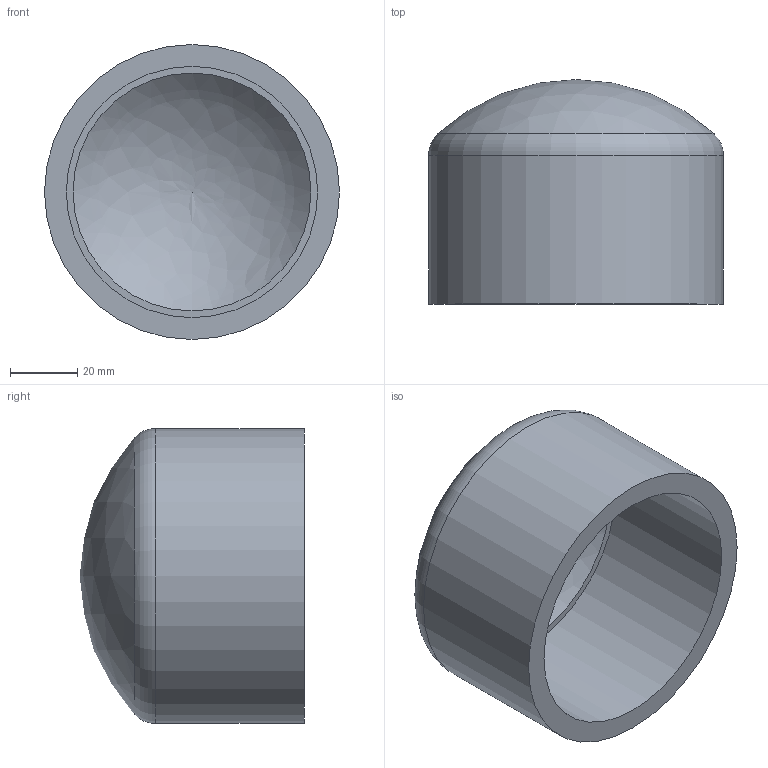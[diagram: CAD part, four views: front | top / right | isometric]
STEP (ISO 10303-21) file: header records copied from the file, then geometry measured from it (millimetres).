
FILE_DESCRIPTION(/* description */ ('PVC calotta incollaggio metrico'),/* implementation_level */ '2;1');
FILE_NAME(/* name */ 'C:\Users\POLYPIPE\Desktop\DATASET INVENTOR\LIBRERIA EFFAST\RACCORDI 3DxWEB\RDR\3D_RDRCAD\3D_RDRCAD0750.stp',/* time_stamp */ '2018-01-19T14:06:50+01:00',/* author */ ('POLYPIPE'),/* organization */ ('Polypipe Italia'),/* preprocessor_version */ 'ST-DEVELOPER v16.1',/* originating_system */ 'Autodesk Inventor 2016',/* authorisation */ '');
FILE_SCHEMA (('CONFIG_CONTROL_DESIGN'));
Length unit declared in the file: millimetre
Products named in the file (1): 3D_RDRCAD
Bounding box: 88 x 67 x 88 mm (x, y, z)
Volume: 122733.6 mm3; surface area: 37762 mm2
Topology: 1 solids, 1 shells, 7 faces, 12 edges, 8 vertices
Faces by surface type: cylinder 2, plane 2, torus 1, sphere 1, bspline 1
Full cylindrical faces by diameter (mm): 75 x1, 88 x1
Entity records: 198 total; most frequent: CARTESIAN_POINT 52, DIRECTION 28, ORIENTED_EDGE 16, AXIS2_PLACEMENT_3D 14, EDGE_LOOP 12, VERTEX_POINT 8, EDGE_CURVE 8, FACE_OUTER_BOUND 7
